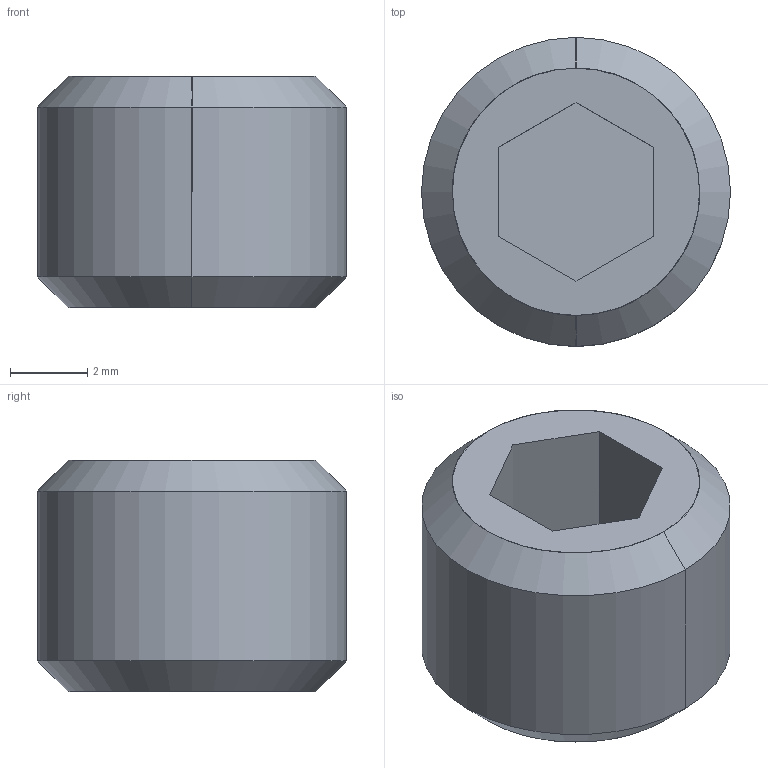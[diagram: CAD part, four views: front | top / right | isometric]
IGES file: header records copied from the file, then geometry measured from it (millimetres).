
Global section: file name: E:\UnigraphicsGraphicData\MISUMI_PRESS-PARTS\IGES\3d_msws8-6_00519_r00.igs; native system: NX V5.0; preprocessor: UGS NX IGES V5.0; author: MISUMI; date: 20110105.161526; units: millimetre
Bounding box: 8 x 8 x 6 mm (x, y, z)
Surface area: 267.9 mm2 (no closed solid volume)
Topology: 0 solids, 0 shells, 15 faces, 76 edges, 76 vertices
Faces by surface type: bspline 15
